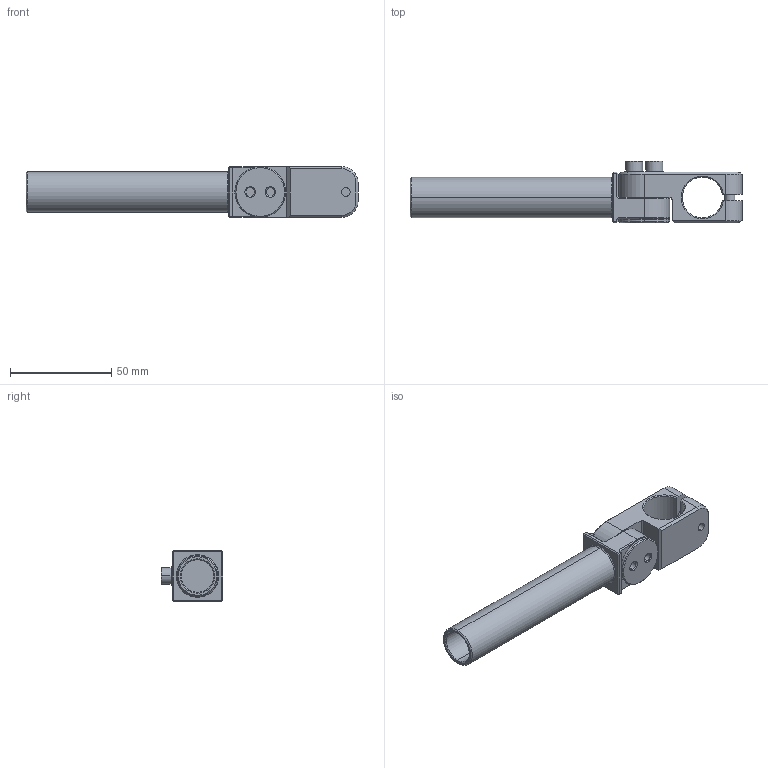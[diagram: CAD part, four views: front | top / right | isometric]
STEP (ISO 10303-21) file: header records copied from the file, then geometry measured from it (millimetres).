
FILE_DESCRIPTION (( 'STEP AP214' ), '1' );
FILE_NAME ('SEAH-2020L100T.STEP', '2023-01-31T02:23:48', ( 'Windows User' ), ( 'P R C' ), 'SwSTEP 2.0', 'SolidWorks 2019', '' );
FILE_SCHEMA (( 'AUTOMOTIVE_DESIGN' ));
Length unit declared in the file: millimetre
Products named in the file (7): SEAH-2020L100T; PTC-M5L20; PTC-M5L16; SEAH-2020L100.3; SEAH-2020L100.1; SEAH-2020L100.2; PTS-M5
Assembly tree (9 placements, depth 2):
  SEAH-2020L100T
    SEAH-2020L100.1
    SEAH-2020L100.2
    SEAH-2020L100.3
    PTC-M5L16
    PTC-M5L20  x2
    PTS-M5  x3
Bounding box: 163.7 x 30.45 x 25 mm (x, y, z)
Volume: 42596.4 mm3; surface area: 25303.8 mm2
Topology: 9 solids, 9 shells, 694 faces, 1922 edges, 1249 vertices
Faces by surface type: plane 574, cone 61, cylinder 57, bspline 2
Entity records: 11138 total; most frequent: CARTESIAN_POINT 2122, DIRECTION 1910, ORIENTED_EDGE 1792, EDGE_CURVE 896, AXIS2_PLACEMENT_3D 667, VECTOR 576, LINE 576, VERTEX_POINT 567
